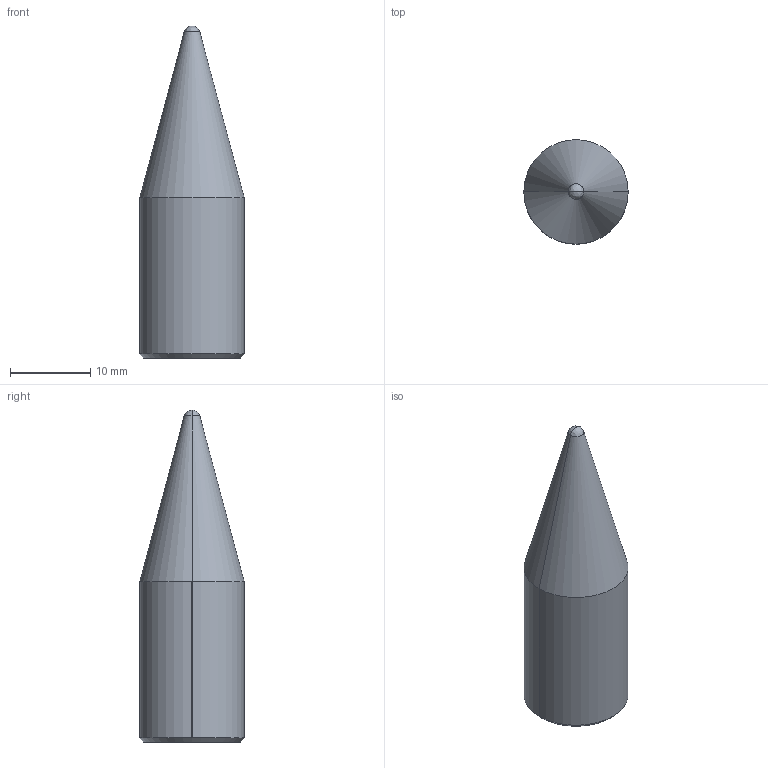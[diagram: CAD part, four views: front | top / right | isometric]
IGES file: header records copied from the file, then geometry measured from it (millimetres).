
Global section: file name: E:\UnigraphicsGraphicData\MISUMI_PRESS-PARTS\IGES\3d_snst13-b20_03109_r00.igs; native system: NX V5.0; preprocessor: UGS NX IGES V5.0; author: MISUMI; date: 20110105.162852; units: millimetre
Bounding box: 13 x 13 x 41.39 mm (x, y, z)
Surface area: 1670 mm2 (no closed solid volume)
Topology: 0 solids, 0 shells, 12 faces, 64 edges, 62 vertices
Faces by surface type: bspline 12
